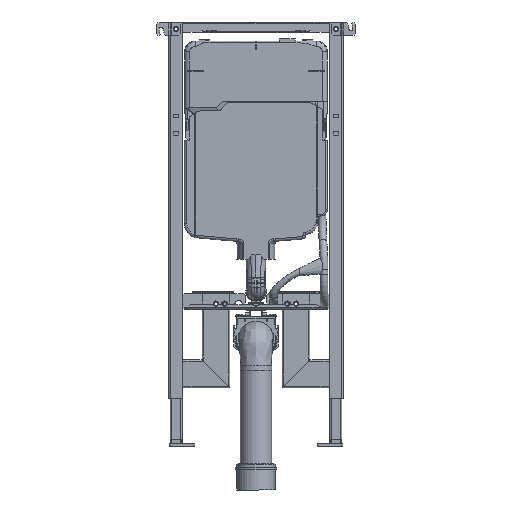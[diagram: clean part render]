
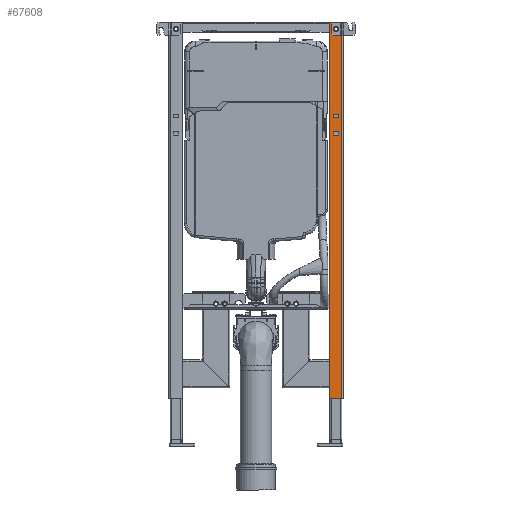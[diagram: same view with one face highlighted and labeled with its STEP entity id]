
A CAD part, left-side view. The second image highlights one B-rep face of the part: STEP entity #67608.
In plain terms, the highlighted planar face has unit normal (-1, 0, 0).
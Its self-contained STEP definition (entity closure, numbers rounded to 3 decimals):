
#2029=PLANE('',#71496);
#4099=LINE('',#95415,#10124);
#4103=LINE('',#95423,#10128);
#4106=LINE('',#95429,#10131);
#4109=LINE('',#95434,#10134);
#4111=LINE('',#95439,#10136);
#4115=LINE('',#95447,#10140);
#4118=LINE('',#95453,#10143);
#4121=LINE('',#95458,#10146);
#4123=LINE('',#95473,#10148);
#4129=LINE('',#95487,#10154);
#4153=LINE('',#95549,#10178);
#4157=LINE('',#95560,#10182);
#10124=VECTOR('',#77538,15.);
#10128=VECTOR('',#77544,9.4);
#10131=VECTOR('',#77549,15.);
#10134=VECTOR('',#77554,9.4);
#10136=VECTOR('',#77558,15.);
#10140=VECTOR('',#77564,9.4);
#10143=VECTOR('',#77569,15.);
#10146=VECTOR('',#77574,9.4);
#10148=VECTOR('',#77590,1080.);
#10154=VECTOR('',#77602,36.);
#10178=VECTOR('',#77672,36.);
#10182=VECTOR('',#77688,1080.);
#16063=FACE_BOUND('',#20436,.T.);
#16064=FACE_BOUND('',#20437,.T.);
#16065=FACE_BOUND('',#20438,.T.);
#16066=FACE_BOUND('',#20439,.T.);
#20436=EDGE_LOOP('',(#43634,#43635,#43636,#43637));
#20437=EDGE_LOOP('',(#43638,#43639,#43640,#43641));
#20438=EDGE_LOOP('',(#43642));
#20439=EDGE_LOOP('',(#43643,#43644,#43645,#43646));
#24671=CIRCLE('',#71460,6.5);
#27286=VERTEX_POINT('',#95413);
#27287=VERTEX_POINT('',#95414);
#27290=VERTEX_POINT('',#95422);
#27292=VERTEX_POINT('',#95428);
#27294=VERTEX_POINT('',#95437);
#27295=VERTEX_POINT('',#95438);
#27298=VERTEX_POINT('',#95446);
#27300=VERTEX_POINT('',#95452);
#27303=VERTEX_POINT('',#95463);
#27306=VERTEX_POINT('',#95471);
#27307=VERTEX_POINT('',#95472);
#27312=VERTEX_POINT('',#95485);
#27327=VERTEX_POINT('',#95548);
#33648=EDGE_CURVE('',#27286,#27287,#4099,.T.);
#33652=EDGE_CURVE('',#27290,#27286,#4103,.T.);
#33655=EDGE_CURVE('',#27292,#27290,#4106,.T.);
#33658=EDGE_CURVE('',#27287,#27292,#4109,.T.);
#33660=EDGE_CURVE('',#27294,#27295,#4111,.T.);
#33664=EDGE_CURVE('',#27298,#27294,#4115,.T.);
#33667=EDGE_CURVE('',#27300,#27298,#4118,.T.);
#33670=EDGE_CURVE('',#27295,#27300,#4121,.T.);
#33673=EDGE_CURVE('',#27303,#27303,#24671,.T.);
#33676=EDGE_CURVE('',#27306,#27307,#4123,.T.);
#33684=EDGE_CURVE('',#27312,#27307,#4129,.T.);
#33716=EDGE_CURVE('',#27306,#27327,#4153,.T.);
#33722=EDGE_CURVE('',#27312,#27327,#4157,.T.);
#43634=ORIENTED_EDGE('',*,*,#33648,.T.);
#43635=ORIENTED_EDGE('',*,*,#33658,.T.);
#43636=ORIENTED_EDGE('',*,*,#33655,.T.);
#43637=ORIENTED_EDGE('',*,*,#33652,.T.);
#43638=ORIENTED_EDGE('',*,*,#33660,.T.);
#43639=ORIENTED_EDGE('',*,*,#33670,.T.);
#43640=ORIENTED_EDGE('',*,*,#33667,.T.);
#43641=ORIENTED_EDGE('',*,*,#33664,.T.);
#43642=ORIENTED_EDGE('',*,*,#33673,.T.);
#43643=ORIENTED_EDGE('',*,*,#33722,.T.);
#43644=ORIENTED_EDGE('',*,*,#33716,.F.);
#43645=ORIENTED_EDGE('',*,*,#33676,.T.);
#43646=ORIENTED_EDGE('',*,*,#33684,.F.);
#67608=ADVANCED_FACE('',(#16063,#16064,#16065,#16066),#2029,.T.);
#71460=AXIS2_PLACEMENT_3D('',#95464,#77580,#77581);
#71496=AXIS2_PLACEMENT_3D('',#95559,#77686,#77687);
#77538=DIRECTION('',(0.,1.,0.));
#77544=DIRECTION('',(0.,0.,-1.));
#77549=DIRECTION('',(0.,-1.,0.));
#77554=DIRECTION('',(0.,0.,1.));
#77558=DIRECTION('',(0.,1.,0.));
#77564=DIRECTION('',(0.,0.,-1.));
#77569=DIRECTION('',(0.,-1.,0.));
#77574=DIRECTION('',(0.,0.,1.));
#77580=DIRECTION('center_axis',(1.,0.,0.));
#77581=DIRECTION('ref_axis',(0.,0.,
-1.));
#77590=DIRECTION('',(0.,0.,1.));
#77602=DIRECTION('',(0.,-1.,0.));
#77672=DIRECTION('',(0.,1.,0.));
#77686=DIRECTION('center_axis',(-1.,0.,0.));
#77687=DIRECTION('ref_axis',(0.,0.,1.));
#77688=DIRECTION('',(0.,0.,-1.));
#95413=CARTESIAN_POINT('',(-40.,-237.5,815.3));
#95414=CARTESIAN_POINT('',(-40.,-222.5,815.3));
#95415=CARTESIAN_POINT('',(-40.,-224.75,815.3));
#95422=CARTESIAN_POINT('',(-40.,-237.5,824.7));
#95423=CARTESIAN_POINT('',(-40.,-237.5,981.35));
#95428=CARTESIAN_POINT('',(-40.,-222.5,824.7));
#95429=CARTESIAN_POINT('',(-40.,-217.25,824.7));
#95434=CARTESIAN_POINT('',(-40.,-222.5,976.65));
#95437=CARTESIAN_POINT('',(-40.,-237.5,865.3));
#95438=CARTESIAN_POINT('',(-40.,-222.5,865.3));
#95439=CARTESIAN_POINT('',(-40.,-224.75,865.3));
#95446=CARTESIAN_POINT('',(-40.,-237.5,874.7));
#95447=CARTESIAN_POINT('',(-40.,-237.5,1006.35));
#95452=CARTESIAN_POINT('',(-40.,-222.5,874.7));
#95453=CARTESIAN_POINT('',(-40.,-217.25,874.7));
#95458=CARTESIAN_POINT('',(-40.,-222.5,1001.65));
#95463=CARTESIAN_POINT('',(-40.,-230.,1126.5));
#95464=CARTESIAN_POINT('Origin',(-40.,-230.,1120.));
#95471=CARTESIAN_POINT('',(-40.,-246.,58.));
#95472=CARTESIAN_POINT('',(-40.,-246.,1138.));
#95473=CARTESIAN_POINT('',(-40.,-246.,598.));
#95485=CARTESIAN_POINT('',(-40.,-210.,1138.));
#95487=CARTESIAN_POINT('',(-40.,-255.048,1138.));
#95548=CARTESIAN_POINT('',(-40.,-210.,58.));
#95549=CARTESIAN_POINT('',(-40.,-212.,58.));
#95559=CARTESIAN_POINT('Origin',(-40.,-212.,1138.));
#95560=CARTESIAN_POINT('',(-40.,-210.,1138.));
